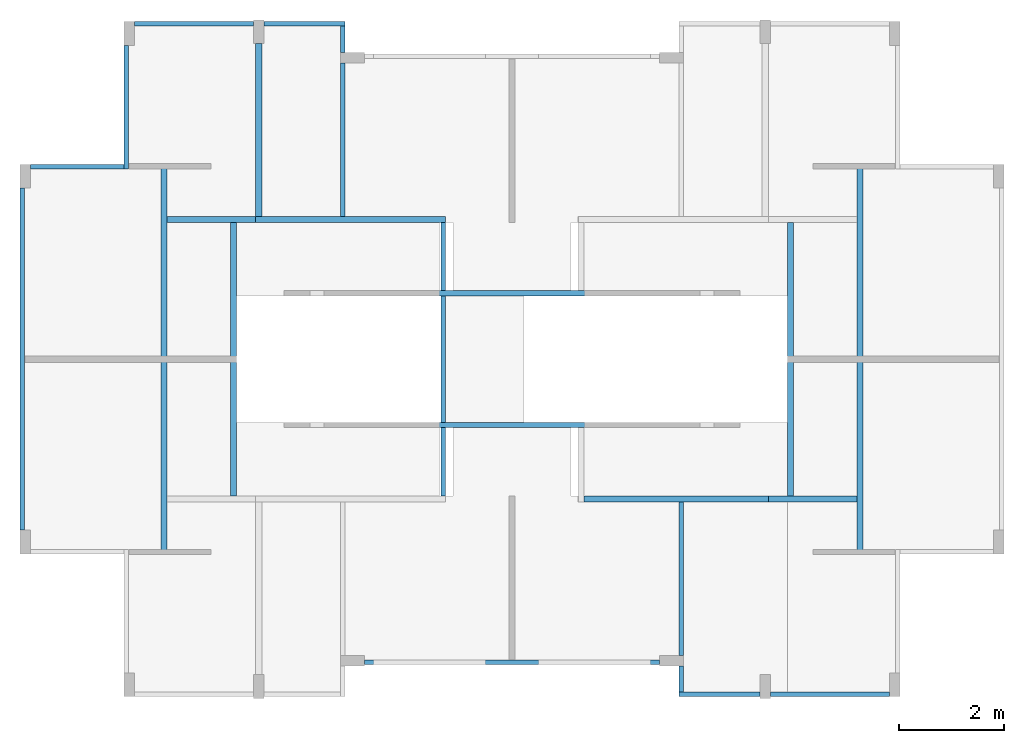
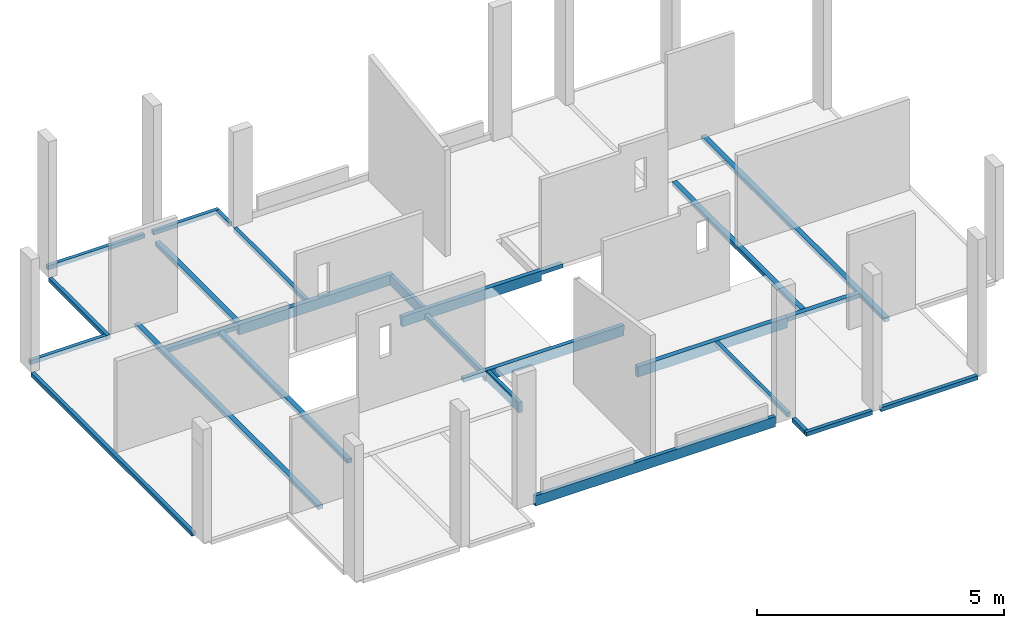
# One storey, part 2 of 5: 20 beams.
"""IFC4 building model written with IfcOpenShell, lengths in metres."""

from ifc_helpers import new_model, entity, si_unit, converted_unit, derived_unit, direction, frame, origin, place, context, subcontext, project, spatial, indexed_curve, outline, extrude, source, transform, mapped, material, type_object, type_shapes, element, save


model = new_model("IFC4")

# Units and contexts
model_context = context("Model", 3, precision=1e-05, world=origin(), true_north=direction((6.123031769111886e-17, 1.0)))
body_context = subcontext(model_context, "Body", "Model", "MODEL_VIEW")
ifc_project = project(units=[si_unit("LENGTHUNIT", "METRE"), si_unit("AREAUNIT", "SQUARE_METRE"), si_unit("VOLUMEUNIT", "CUBIC_METRE"), converted_unit("PLANEANGLEUNIT", "DEGREE", entity("IfcRatioMeasure", 0.017453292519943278), si_unit("PLANEANGLEUNIT", "RADIAN"), dimensions=[0, 0, 0, 0, 0, 0, 0]), si_unit("MASSUNIT", "GRAM", prefix="KILO"), derived_unit("MASSDENSITYUNIT", [(si_unit("MASSUNIT", "GRAM", prefix="KILO"), 1), (si_unit("LENGTHUNIT", "METRE"), -3)]), derived_unit("IONCONCENTRATIONUNIT", [(si_unit("MASSUNIT", "GRAM", prefix="KILO"), 1), (si_unit("LENGTHUNIT", "METRE"), -3)]), derived_unit("MOMENTOFINERTIAUNIT", [(si_unit("LENGTHUNIT", "METRE"), 4)]), si_unit("TIMEUNIT", "SECOND"), si_unit("FREQUENCYUNIT", "HERTZ"), si_unit("THERMODYNAMICTEMPERATUREUNIT", "DEGREE_CELSIUS"), derived_unit("THERMALTRANSMITTANCEUNIT", [(si_unit("MASSUNIT", "GRAM", prefix="KILO"), 1), (si_unit("THERMODYNAMICTEMPERATUREUNIT", "KELVIN"), -1), (si_unit("TIMEUNIT", "SECOND"), -3)]), derived_unit("THERMALCONDUCTANCEUNIT", [(si_unit("MASSUNIT", "GRAM", prefix="KILO"), 1), (si_unit("THERMODYNAMICTEMPERATUREUNIT", "KELVIN"), -1), (si_unit("TIMEUNIT", "SECOND"), -3), (si_unit("LENGTHUNIT", "METRE"), 1)]), derived_unit("VOLUMETRICFLOWRATEUNIT", [(si_unit("LENGTHUNIT", "METRE"), 3), (si_unit("TIMEUNIT", "SECOND"), -1)]), derived_unit("MASSFLOWRATEUNIT", [(si_unit("MASSUNIT", "GRAM", prefix="KILO"), 1), (si_unit("TIMEUNIT", "SECOND"), -1)]), derived_unit("ROTATIONALFREQUENCYUNIT", [(si_unit("TIMEUNIT", "SECOND"), -1)]), si_unit("ELECTRICCURRENTUNIT", "AMPERE"), si_unit("ELECTRICVOLTAGEUNIT", "VOLT"), si_unit("POWERUNIT", "WATT"), si_unit("FORCEUNIT", "NEWTON", prefix="KILO"), si_unit("ILLUMINANCEUNIT", "LUX"), si_unit("LUMINOUSFLUXUNIT", "LUMEN"), si_unit("LUMINOUSINTENSITYUNIT", "CANDELA"), derived_unit("USERDEFINED", [(si_unit("MASSUNIT", "GRAM", prefix="KILO"), -1), (si_unit("LENGTHUNIT", "METRE"), -2), (si_unit("TIMEUNIT", "SECOND"), 3), (si_unit("LUMINOUSFLUXUNIT", "LUMEN"), 1)]), derived_unit("USERDEFINED", [(si_unit("MASSUNIT", "GRAM", prefix="KILO"), 1), (si_unit("TIMEUNIT", "SECOND"), -3), (si_unit("LENGTHUNIT", "METRE"), 3), (si_unit("ELECTRICCURRENTUNIT", "AMPERE"), -2)]), derived_unit("SOUNDPOWERUNIT", [(si_unit("MASSUNIT", "GRAM", prefix="KILO"), 1), (si_unit("TIMEUNIT", "SECOND"), -3), (si_unit("LENGTHUNIT", "METRE"), 2)]), derived_unit("SOUNDPRESSUREUNIT", [(si_unit("MASSUNIT", "GRAM", prefix="KILO"), 1), (si_unit("LENGTHUNIT", "METRE"), -1), (si_unit("TIMEUNIT", "SECOND"), -2)]), derived_unit("LINEARVELOCITYUNIT", [(si_unit("LENGTHUNIT", "METRE"), 1), (si_unit("TIMEUNIT", "SECOND"), -1)]), si_unit("PRESSUREUNIT", "PASCAL"), derived_unit("USERDEFINED", [(si_unit("MASSUNIT", "GRAM", prefix="KILO"), 1), (si_unit("LENGTHUNIT", "METRE"), -2), (si_unit("TIMEUNIT", "SECOND"), -2)]), derived_unit("LINEARFORCEUNIT", [(si_unit("MASSUNIT", "GRAM", prefix="KILO"), 1), (si_unit("TIMEUNIT", "SECOND"), -2)]), derived_unit("PLANARFORCEUNIT", [(si_unit("MASSUNIT", "GRAM", prefix="KILO"), 1), (si_unit("LENGTHUNIT", "METRE"), -1), (si_unit("TIMEUNIT", "SECOND"), -2)]), derived_unit("SPECIFICHEATCAPACITYUNIT", [(si_unit("THERMODYNAMICTEMPERATUREUNIT", "KELVIN"), -1), (si_unit("LENGTHUNIT", "METRE"), 2), (si_unit("TIMEUNIT", "SECOND"), -2)]), derived_unit("HEATINGVALUEUNIT", [(si_unit("LENGTHUNIT", "METRE"), 2), (si_unit("TIMEUNIT", "SECOND"), -2)]), derived_unit("VAPORPERMEABILITYUNIT", [(si_unit("LENGTHUNIT", "METRE"), -1), (si_unit("TIMEUNIT", "SECOND"), 1)]), derived_unit("DYNAMICVISCOSITYUNIT", [(si_unit("MASSUNIT", "GRAM", prefix="KILO"), 1), (si_unit("TIMEUNIT", "SECOND"), -1), (si_unit("LENGTHUNIT", "METRE"), -1)]), derived_unit("THERMALEXPANSIONCOEFFICIENTUNIT", [(si_unit("THERMODYNAMICTEMPERATUREUNIT", "KELVIN"), -1)]), derived_unit("MODULUSOFELASTICITYUNIT", [(si_unit("MASSUNIT", "GRAM", prefix="KILO"), 1), (si_unit("LENGTHUNIT", "METRE"), -1), (si_unit("TIMEUNIT", "SECOND"), -2)]), derived_unit("ISOTHERMALMOISTURECAPACITYUNIT", [(si_unit("LENGTHUNIT", "METRE"), 3), (si_unit("MASSUNIT", "GRAM", prefix="KILO"), -1)]), derived_unit("MOISTUREDIFFUSIVITYUNIT", [(si_unit("TIMEUNIT", "SECOND"), -1), (si_unit("LENGTHUNIT", "METRE"), 2)])], contexts=[model_context])

# Site, building, storey
site_placement = place(None, origin())
site = spatial("IfcSite", under=ifc_project, at=site_placement, Name="Default", CompositionType="ELEMENT")
building_placement = place(site_placement, origin())
building = spatial("IfcBuilding", under=site, at=building_placement, Name="Las nubes", CompositionType="ELEMENT")
storey_placement = place(building_placement, frame((0.0, 0.0, 11.750000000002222)))
storey = spatial("IfcBuildingStorey", under=building, at=storey_placement, Name="PISO 6", CompositionType="ELEMENT", Elevation=11.750000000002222)

# Beams
ifc_material_1 = material(Name="Concrete, Cast In Situ", Category="Materials")
beam_type_1 = type_object("IfcBeamType", Name="M_Concrete-Rectangular Beam:(0.085x0.25)", PredefinedType="BEAM", material=ifc_material_1)
shared_shape_1 = source(origin(), body_context, "Body", "SweptSolid", [
    extrude(outline(indexed_curve([(-0.12500000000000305, -0.04249999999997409), (0.12499999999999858, -0.04250000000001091), (0.12500000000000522, 0.04249999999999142), (-0.12499999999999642, 0.042500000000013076), (-0.12500000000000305, -0.04249999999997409)], self_intersect=False)), frame((6.517499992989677, -12.18250002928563, 11.775000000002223), z_axis=(1.0, 0.0, 0.0), x_axis=(0.0, 0.0, -1.0)), (0.0, 0.0, 1.0), 5.6100000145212),
])
type_shapes(beam_type_1, [shared_shape_1])
beam_1_placement = place(storey_placement, frame((0.0, 0.0, -11.750000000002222)))
element("IfcBeam", 1, at=beam_1_placement, inside=storey, type_object=beam_type_1, material=ifc_material_1, Name="M_Concrete-Rectangular Beam:(0.085x0.25)", ObjectType="M_Concrete-Rectangular Beam:(0.085x0.25)", PredefinedType="BEAM", context=body_context, shape_type="MappedRepresentation", body=[
    mapped(shared_shape_1, transform((0.0, 0.0, 0.0), scale=1.0)),
])
ifc_material_2 = material(Name="Concrete - Cast-in-Place Concrete - 35 MPa", Category="Materials")
beam_type_2 = type_object("IfcBeamType", Name="M_Concrete-Rectangular Beam:(0.10x0.25)", PredefinedType="BEAM", material=ifc_material_2)
shared_shape_2 = source(origin(), body_context, "Body", "SweptSolid", [
    extrude(outline(indexed_curve([(-1.9843478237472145, -0.09347826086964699), (-1.4843478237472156, -0.09347826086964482), (-1.4793478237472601, -0.09347826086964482), (-1.4493478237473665, -0.09347826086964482), (-1.364347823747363, -0.09347826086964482), (-1.224347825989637, -0.09347826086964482), (1.015652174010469, -0.09347826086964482), (1.150652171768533, -0.09347826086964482), (1.2656521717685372, -0.09347826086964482), (1.2706521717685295, -0.09347826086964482), (1.2756521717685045, -0.09347826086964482), (1.7756521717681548, -0.09347826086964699), (1.7756521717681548, 0.006521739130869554), (1.765652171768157, 0.006521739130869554), (1.765652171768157, 0.15652173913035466), (1.2756521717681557, 0.15652173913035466), (1.2656521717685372, 0.15652173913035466), (1.150652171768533, 0.15652173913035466), (-1.364347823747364, 0.15652173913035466), (-1.4493478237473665, 0.15652173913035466), (-1.4843478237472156, 0.15652173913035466), (-1.4843478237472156, 0.00652173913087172), (-1.9843478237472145, 0.006521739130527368), (-1.9843478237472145, -0.09347826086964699)], self_intersect=False)), frame((9.42684782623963, -7.725000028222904, 11.656521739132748), z_axis=(0.0, 1.0, 0.0), x_axis=(1.0, 0.0, 0.0)), (0.0, 0.0, 1.0), 0.10000000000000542),
])
type_shapes(beam_type_2, [shared_shape_2])
beam_2_placement = place(storey_placement, frame((0.0, 0.0, -11.750000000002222)))
element("IfcBeam", 2, at=beam_2_placement, inside=storey, type_object=beam_type_2, material=ifc_material_2, Name="M_Concrete-Rectangular Beam:(0.10x0.25)", ObjectType="M_Concrete-Rectangular Beam:(0.10x0.25)", PredefinedType="BEAM", context=body_context, shape_type="MappedRepresentation", body=[
    mapped(shared_shape_2, transform((0.0, 0.0, 0.0), scale=1.0)),
])
beam_type_3 = type_object("IfcBeamType", Name="M_Concrete-Rectangular Beam:(0.10x0.25)", PredefinedType="BEAM", material=ifc_material_2)
shared_shape_3 = source(origin(), body_context, "Body", "SweptSolid", [
    extrude(outline(indexed_curve([(-0.11000000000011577, -2.2853333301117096), (-0.009999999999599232, -2.2853333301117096), (-0.009999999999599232, -1.7853333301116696), (0.13999999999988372, -1.7853333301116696), (0.13999999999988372, 0.8546666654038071), (0.13999999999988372, 0.9396666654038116), (0.13999999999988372, 0.9746666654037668), (0.13999999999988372, 1.4646666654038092), (-0.009999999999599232, 1.4646666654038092), (-0.009999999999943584, 1.4746666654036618), (-0.11000000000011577, 1.4746666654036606), (-0.11000000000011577, 0.9746666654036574), (-0.11000000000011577, 0.9396666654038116), (-0.11000000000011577, -0.6353333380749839), (-0.11000000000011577, -1.7853333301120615), (-0.11000000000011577, -2.2853333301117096)], self_intersect=False)), frame((8.91716666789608, -5.22500002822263, 11.640000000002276), z_axis=(0.0, 1.0, 0.0), x_axis=(0.0, 0.0, -1.0)), (0.0, 0.0, 1.0), 0.10000000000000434),
])
type_shapes(beam_type_3, [shared_shape_3])
beam_3_placement = place(storey_placement, frame((0.0, 0.0, -11.750000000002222)))
element("IfcBeam", 3, at=beam_3_placement, inside=storey, type_object=beam_type_3, material=ifc_material_2, Name="M_Concrete-Rectangular Beam:(0.10x0.25)", ObjectType="M_Concrete-Rectangular Beam:(0.10x0.25)", PredefinedType="BEAM", context=body_context, shape_type="MappedRepresentation", body=[
    mapped(shared_shape_3, transform((0.0, 0.0, 0.0), scale=1.0)),
])
beam_type_4 = type_object("IfcBeamType", Name="M_Concrete-Rectangular Beam:(0.085x0.10)", PredefinedType="BEAM", material=ifc_material_1)
shared_shape_4 = source(origin(), body_context, "Body", "SweptSolid", [
    extrude(outline(indexed_curve([(-0.04250000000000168, -0.050000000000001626), (0.04250000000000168, -0.050000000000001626), (0.0425000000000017, 0.04999999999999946), (-0.04250000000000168, 0.04999999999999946), (-0.04250000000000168, -0.050000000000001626)], self_intersect=False)), frame((0.01500000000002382, -9.674994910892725, 11.700000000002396), z_axis=(0.0, 1.0, 0.0), x_axis=(-1.0, 0.0, 0.0)), (0.0, 0.0, 1.0), 6.499994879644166),
])
type_shapes(beam_type_4, [shared_shape_4])
beam_4_placement = place(storey_placement, frame((0.0, 0.0, -11.750000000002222)))
element("IfcBeam", 4, at=beam_4_placement, inside=storey, type_object=beam_type_4, material=ifc_material_1, Name="M_Concrete-Rectangular Beam:(0.085x0.10)", ObjectType="M_Concrete-Rectangular Beam:(0.085x0.10)", PredefinedType="BEAM", context=body_context, shape_type="MappedRepresentation", body=[
    mapped(shared_shape_4, transform((0.0, 0.0, 0.0), scale=1.0)),
])
beam_type_5 = type_object("IfcBeamType", Name="M_Concrete-Rectangular Beam:(0.085x0.10)", PredefinedType="BEAM", material=ifc_material_1)
shared_shape_5 = source(origin(), body_context, "Body", "SweptSolid", [
    extrude(outline(indexed_curve([(-0.04250000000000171, -0.050000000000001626), (0.04250000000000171, -0.050000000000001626), (0.04250000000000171, 0.04999999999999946), (-0.04250000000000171, 0.04999999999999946), (-0.04250000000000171, -0.050000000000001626)], self_intersect=False)), frame((1.9899999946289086, -2.810000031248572, 11.700000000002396), z_axis=(0.0, 1.0, 0.0), x_axis=(-1.0, 0.0, 0.0)), (0.0, 0.0, 1.0), 2.3500000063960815),
])
type_shapes(beam_type_5, [shared_shape_5])
beam_5_placement = place(storey_placement, frame((0.0, 0.0, -11.750000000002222)))
element("IfcBeam", 5, at=beam_5_placement, inside=storey, type_object=beam_type_5, material=ifc_material_1, Name="M_Concrete-Rectangular Beam:(0.085x0.10)", ObjectType="M_Concrete-Rectangular Beam:(0.085x0.10)", PredefinedType="BEAM", context=body_context, shape_type="MappedRepresentation", body=[
    mapped(shared_shape_5, transform((0.0, 0.0, 0.0), scale=1.0)),
])
beam_type_6 = type_object("IfcBeamType", Name="M_Concrete-Rectangular Beam:(0.085x0.10)", PredefinedType="BEAM", material=ifc_material_1)
shared_shape_6 = source(origin(), body_context, "Body", "SweptSolid", [
    extrude(outline(indexed_curve([(-0.05000000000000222, -0.04249999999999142), (0.04999999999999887, -0.042500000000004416), (0.05000000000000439, 0.04249999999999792), (-0.04999999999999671, 0.042500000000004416), (-0.05000000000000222, -0.04249999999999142)], self_intersect=False)), frame((14.235000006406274, -12.797498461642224, 11.700000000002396), z_axis=(1.0, 0.0, 0.0), x_axis=(0.0, 0.0, -1.0)), (0.0, 0.0, 1.0), 2.2624999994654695),
    extrude(outline(indexed_curve([(-0.05000000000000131, -0.04249999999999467), (0.04999999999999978, -0.042500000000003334), (0.05000000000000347, 0.042499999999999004), (-0.049999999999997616, 0.042500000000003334), (-0.05000000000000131, -0.04249999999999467)], self_intersect=False)), frame((12.49250000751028, -12.797498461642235, 11.700000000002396), z_axis=(1.0, 0.0, 0.0), x_axis=(0.0, 0.0, -1.0)), (0.0, 0.0, 1.0), 1.5424999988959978),
])
type_shapes(beam_type_6, [shared_shape_6])
beam_6_placement = place(storey_placement, frame((0.0, 0.0, -11.750000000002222)))
element("IfcBeam", 6, at=beam_6_placement, inside=storey, type_object=beam_type_6, material=ifc_material_1, Name="M_Concrete-Rectangular Beam:(0.085x0.10)", ObjectType="M_Concrete-Rectangular Beam:(0.085x0.10)", PredefinedType="BEAM", context=body_context, shape_type="MappedRepresentation", body=[
    mapped(shared_shape_6, transform((0.0, 0.0, 0.0), scale=1.0)),
])
beam_type_7 = type_object("IfcBeamType", Name="M_Concrete-Rectangular Beam:(0.085x0.25)", PredefinedType="BEAM", material=ifc_material_1)
shared_shape_7 = source(origin(), body_context, "Body", "SweptSolid", [
    extrude(outline(indexed_curve([(-0.04250000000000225, -0.12500000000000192), (0.04250000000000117, -0.12500000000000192), (0.04250000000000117, 0.12499999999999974), (-0.04250000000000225, 0.12499999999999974), (-0.04250000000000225, -0.12500000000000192)], self_intersect=False)), frame((8.020000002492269, -5.125000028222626, 11.625000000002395), z_axis=(0.0, 1.0, 0.0), x_axis=(-1.0, 0.0, 0.0)), (0.0, 0.0, 1.0), 1.3000000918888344),
    extrude(outline(indexed_curve([(-0.04250000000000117, -0.12500000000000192), (0.04250000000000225, -0.12500000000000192), (0.04250000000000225, 0.12499999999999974), (-0.04250000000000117, 0.12499999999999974), (-0.04250000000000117, -0.12500000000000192)], self_intersect=False)), frame((8.020000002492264, -9.025000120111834, 11.625000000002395), z_axis=(0.0, 1.0, 0.0), x_axis=(-1.0, 0.0, 0.0)), (0.0, 0.0, 1.0), 1.3000000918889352),
    extrude(outline(indexed_curve([(-0.04250000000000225, -0.06499999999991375), (0.04250000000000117, -0.06499999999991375), (0.042500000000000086, 0.06499999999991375), (-0.04250000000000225, 0.06499999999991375), (-0.04250000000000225, -0.06499999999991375)], self_intersect=False)), frame((8.020000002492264, -7.6250000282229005, 11.565000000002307), z_axis=(0.0, 1.0, 0.0), x_axis=(-1.0, 0.0, 0.0)), (0.0, 0.0, 1.0), 2.4000000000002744),
])
type_shapes(beam_type_7, [shared_shape_7])
beam_7_placement = place(storey_placement, frame((0.0, 0.0, -11.750000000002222)))
element("IfcBeam", 7, at=beam_7_placement, inside=storey, type_object=beam_type_7, material=ifc_material_1, Name="M_Concrete-Rectangular Beam:(0.085x0.25)", ObjectType="M_Concrete-Rectangular Beam:(0.085x0.25)", PredefinedType="BEAM", context=body_context, shape_type="MappedRepresentation", body=[
    mapped(shared_shape_7, transform((0.0, 0.0, 0.0), scale=1.0)),
])
beam_type_8 = type_object("IfcBeamType", Name="M_Concrete-Rectangular Beam:(0.115x0.25)", PredefinedType="BEAM", material=ifc_material_1)
shared_shape_8 = source(origin(), body_context, "Body", "SweptSolid", [
    extrude(outline(indexed_curve([(-0.12500000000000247, -0.05749999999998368), (0.12499999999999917, -0.0575000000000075), (0.12500000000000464, 0.05749999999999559), (-0.124999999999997, 0.0575000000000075), (-0.12500000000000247, -0.05749999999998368)], self_intersect=False)), frame((8.062500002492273, -3.7674999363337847, 11.625000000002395), z_axis=(-1.0, 0.0, 0.0), x_axis=(0.0, 0.0, -1.0)), (0.0, 0.0, 1.0), 3.610000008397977),
])
type_shapes(beam_type_8, [shared_shape_8])
beam_8_placement = place(storey_placement, frame((0.0, 0.0, -11.750000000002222)))
element("IfcBeam", 8, at=beam_8_placement, inside=storey, type_object=beam_type_8, material=ifc_material_1, Name="M_Concrete-Rectangular Beam:(0.115x0.25)", ObjectType="M_Concrete-Rectangular Beam:(0.115x0.25)", PredefinedType="BEAM", context=body_context, shape_type="MappedRepresentation", body=[
    mapped(shared_shape_8, transform((0.0, 0.0, 0.0), scale=1.0)),
])
beam_type_9 = type_object("IfcBeamType", Name="M_Concrete-Rectangular Beam:(0.115x0.25)", PredefinedType="BEAM", material=ifc_material_1)
shared_shape_9 = source(origin(), body_context, "Body", "SweptSolid", [
    extrude(outline(indexed_curve([(-0.12500000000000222, -0.057499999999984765), (0.12499999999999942, -0.05750000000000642), (0.12500000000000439, 0.05749999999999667), (-0.12499999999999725, 0.0575000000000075), (-0.12500000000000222, -0.057499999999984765)], self_intersect=False)), frame((10.692499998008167, -9.082500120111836, 11.625000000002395), z_axis=(1.0, 0.0, 0.0), x_axis=(0.0, 0.0, -1.0)), (0.0, 0.0, 1.0), 3.5000000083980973),
])
type_shapes(beam_type_9, [shared_shape_9])
beam_9_placement = place(storey_placement, frame((0.0, 0.0, -11.750000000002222)))
element("IfcBeam", 9, at=beam_9_placement, inside=storey, type_object=beam_type_9, material=ifc_material_1, Name="M_Concrete-Rectangular Beam:(0.115x0.25)", ObjectType="M_Concrete-Rectangular Beam:(0.115x0.25)", PredefinedType="BEAM", context=body_context, shape_type="MappedRepresentation", body=[
    mapped(shared_shape_9, transform((0.0, 0.0, 0.0), scale=1.0)),
])
beam_type_10 = type_object("IfcBeamType", Name="M_Concrete-Rectangular Beam:(0.115x0.10)", PredefinedType="BEAM", material=ifc_material_1)
shared_shape_10 = source(origin(), body_context, "Body", "SweptSolid", [
    extrude(outline(indexed_curve([(-0.05750000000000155, -0.050000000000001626), (0.05750000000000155, -0.050000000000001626), (0.05750000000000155, 0.04999999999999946), (-0.05750000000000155, 0.04999999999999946), (-0.05750000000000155, -0.050000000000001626)], self_intersect=False)), frame((2.710001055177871, -10.140000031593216, 11.700000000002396), z_axis=(0.0, 1.0, 0.0), x_axis=(-1.0, 0.0, 0.0)), (0.0, 0.0, 1.0), 7.430000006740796),
])
type_shapes(beam_type_10, [shared_shape_10])
beam_10_placement = place(storey_placement, frame((0.0, 0.0, -11.750000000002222)))
element("IfcBeam", 10, at=beam_10_placement, inside=storey, type_object=beam_type_10, material=ifc_material_1, Name="M_Concrete-Rectangular Beam:(0.115x0.10)", ObjectType="M_Concrete-Rectangular Beam:(0.115x0.10)", PredefinedType="BEAM", context=body_context, shape_type="MappedRepresentation", body=[
    mapped(shared_shape_10, transform((0.0, 0.0, 0.0), scale=1.0)),
])
beam_type_11 = type_object("IfcBeamType", Name="M_Concrete-Rectangular Beam:(0.115x0.10)", PredefinedType="BEAM", material=ifc_material_1)
shared_shape_11 = source(origin(), body_context, "Body", "SweptSolid", [
    extrude(outline(indexed_curve([(-0.05750000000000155, -0.050000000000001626), (0.05750000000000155, -0.050000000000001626), (0.05750000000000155, 0.04999999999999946), (-0.05750000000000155, 0.04999999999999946), (-0.05750000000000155, -0.050000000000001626)], self_intersect=False)), frame((4.029999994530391, -9.025000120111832, 11.700000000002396), z_axis=(0.0, 1.0, 0.0), x_axis=(-1.0, 0.0, 0.0)), (0.0, 0.0, 1.0), 5.200000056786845),
])
type_shapes(beam_type_11, [shared_shape_11])
beam_11_placement = place(storey_placement, frame((0.0, 0.0, -11.750000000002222)))
element("IfcBeam", 11, at=beam_11_placement, inside=storey, type_object=beam_type_11, material=ifc_material_1, Name="M_Concrete-Rectangular Beam:(0.115x0.10)", ObjectType="M_Concrete-Rectangular Beam:(0.115x0.10)", PredefinedType="BEAM", context=body_context, shape_type="MappedRepresentation", body=[
    mapped(shared_shape_11, transform((0.0, 0.0, 0.0), scale=1.0)),
])
beam_type_12 = type_object("IfcBeamType", Name="M_Concrete-Rectangular Beam:(0.115x0.10)", PredefinedType="BEAM", material=ifc_material_1)
shared_shape_12 = source(origin(), body_context, "Body", "SweptSolid", [
    extrude(outline(indexed_curve([(-0.05750000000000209, -0.04999999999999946), (0.05750000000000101, -0.04999999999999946), (0.05750000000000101, 0.050000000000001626), (-0.05750000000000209, 0.050000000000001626), (-0.05750000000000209, -0.04999999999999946)], self_intersect=False)), frame((4.5099999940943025, -0.4300000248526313, 11.700000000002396), z_axis=(0.0, -1.0, 0.0), x_axis=(-1.0, 0.0, 0.0)), (0.0, 0.0, 1.0), 3.2799999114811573),
])
type_shapes(beam_type_12, [shared_shape_12])
beam_12_placement = place(storey_placement, frame((0.0, 0.0, -11.750000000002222)))
element("IfcBeam", 12, at=beam_12_placement, inside=storey, type_object=beam_type_12, material=ifc_material_1, Name="M_Concrete-Rectangular Beam:(0.115x0.10)", ObjectType="M_Concrete-Rectangular Beam:(0.115x0.10)", PredefinedType="BEAM", context=body_context, shape_type="MappedRepresentation", body=[
    mapped(shared_shape_12, transform((0.0, 0.0, 0.0), scale=1.0)),
])
beam_type_13 = type_object("IfcBeamType", Name="M_Concrete-Rectangular Beam:(0.115x0.10)", PredefinedType="BEAM", material=ifc_material_1)
shared_shape_13 = source(origin(), body_context, "Body", "SweptSolid", [
    extrude(outline(indexed_curve([(-0.05000000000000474, -0.057499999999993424), (0.049999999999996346, -0.057500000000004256), (0.05000000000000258, 0.057499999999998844), (-0.04999999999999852, 0.057500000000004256), (-0.05000000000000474, -0.057499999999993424)], self_intersect=False)), frame((4.452499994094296, -3.7675000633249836, 11.700000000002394), z_axis=(-1.0, 0.0, 0.0), x_axis=(0.0, 0.0, -1.0)), (0.0, 0.0, 1.0), 1.6849989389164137),
])
type_shapes(beam_type_13, [shared_shape_13])
beam_13_placement = place(storey_placement, frame((0.0, 0.0, -11.750000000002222)))
element("IfcBeam", 13, at=beam_13_placement, inside=storey, type_object=beam_type_13, material=ifc_material_1, Name="M_Concrete-Rectangular Beam:(0.115x0.10)", ObjectType="M_Concrete-Rectangular Beam:(0.115x0.10)", PredefinedType="BEAM", context=body_context, shape_type="MappedRepresentation", body=[
    mapped(shared_shape_13, transform((0.0, 0.0, 0.0), scale=1.0)),
])
beam_type_14 = type_object("IfcBeamType", Name="M_Concrete-Rectangular Beam:(0.115x0.10)", PredefinedType="BEAM", material=ifc_material_1)
shared_shape_14 = source(origin(), body_context, "Body", "SweptSolid", [
    extrude(outline(indexed_curve([(-0.057500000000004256, -0.050000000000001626), (0.05750000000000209, -0.050000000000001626), (0.05750000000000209, 0.04999999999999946), (-0.05750000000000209, 0.04999999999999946), (-0.057500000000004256, -0.050000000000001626)], self_intersect=False)), frame((15.934998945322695, -10.14000003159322, 11.700000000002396), z_axis=(0.0, 1.0, 0.0), x_axis=(-1.0, 0.0, 0.0)), (0.0, 0.0, 1.0), 7.430000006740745),
])
type_shapes(beam_type_14, [shared_shape_14])
beam_14_placement = place(storey_placement, frame((0.0, 0.0, -11.750000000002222)))
element("IfcBeam", 14, at=beam_14_placement, inside=storey, type_object=beam_type_14, material=ifc_material_1, Name="M_Concrete-Rectangular Beam:(0.115x0.10)", ObjectType="M_Concrete-Rectangular Beam:(0.115x0.10)", PredefinedType="BEAM", context=body_context, shape_type="MappedRepresentation", body=[
    mapped(shared_shape_14, transform((0.0, 0.0, 0.0), scale=1.0)),
])
beam_type_15 = type_object("IfcBeamType", Name="M_Concrete-Rectangular Beam:(0.115x0.10)", PredefinedType="BEAM", material=ifc_material_1)
shared_shape_15 = source(origin(), body_context, "Body", "SweptSolid", [
    extrude(outline(indexed_curve([(-0.05750000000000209, -0.050000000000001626), (0.05750000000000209, -0.050000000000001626), (0.05750000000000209, 0.04999999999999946), (-0.05750000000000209, 0.04999999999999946), (-0.05750000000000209, -0.050000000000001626)], self_intersect=False)), frame((14.615000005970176, -9.025000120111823, 11.700000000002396), z_axis=(0.0, 1.0, 0.0), x_axis=(-1.0, 0.0, 0.0)), (0.0, 0.0, 1.0), 5.200000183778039),
])
type_shapes(beam_type_15, [shared_shape_15])
beam_15_placement = place(storey_placement, frame((0.0, 0.0, -11.750000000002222)))
element("IfcBeam", 15, at=beam_15_placement, inside=storey, type_object=beam_type_15, material=ifc_material_1, Name="M_Concrete-Rectangular Beam:(0.115x0.10)", ObjectType="M_Concrete-Rectangular Beam:(0.115x0.10)", PredefinedType="BEAM", context=body_context, shape_type="MappedRepresentation", body=[
    mapped(shared_shape_15, transform((0.0, 0.0, 0.0), scale=1.0)),
])
beam_type_16 = type_object("IfcBeamType", Name="M_Concrete-Rectangular Beam:(0.115x0.10)", PredefinedType="BEAM", material=ifc_material_1)
shared_shape_16 = source(origin(), body_context, "Body", "SweptSolid", [
    extrude(outline(indexed_curve([(-0.05000000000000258, -0.057499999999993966), (0.04999999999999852, -0.0575000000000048), (0.05000000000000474, 0.0574999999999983), (-0.049999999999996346, 0.057500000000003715), (-0.05000000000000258, -0.057499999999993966)], self_intersect=False)), frame((14.192500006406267, -9.082499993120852, 11.700000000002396), z_axis=(1.0, 0.0, 0.0), x_axis=(0.0, 0.0, -1.0)), (0.0, 0.0, 1.0), 1.6849989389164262),
])
type_shapes(beam_type_16, [shared_shape_16])
beam_16_placement = place(storey_placement, frame((0.0, 0.0, -11.750000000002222)))
element("IfcBeam", 16, at=beam_16_placement, inside=storey, type_object=beam_type_16, material=ifc_material_1, Name="M_Concrete-Rectangular Beam:(0.115x0.10)", ObjectType="M_Concrete-Rectangular Beam:(0.115x0.10)", PredefinedType="BEAM", context=body_context, shape_type="MappedRepresentation", body=[
    mapped(shared_shape_16, transform((0.0, 0.0, 0.0), scale=1.0)),
])
beam_type_17 = type_object("IfcBeamType", Name="M_Concrete-Rectangular Beam:(0.085x0.10)", PredefinedType="BEAM", material=ifc_material_1)
shared_shape_17 = source(origin(), body_context, "Body", "SweptSolid", [
    extrude(outline(indexed_curve([(-0.04250000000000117, -0.050000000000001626), (0.042499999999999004, -0.050000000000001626), (0.04250000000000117, 0.04999999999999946), (-0.042500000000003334, 0.0499999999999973), (-0.04250000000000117, -0.050000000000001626)], self_intersect=False)), frame((12.535000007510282, -12.755000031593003, 11.700000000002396), z_axis=(0.0, 1.0, 0.0), x_axis=(-1.0, 0.0, 0.0)), (0.0, 0.0, 1.0), 0.5000000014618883),
    extrude(outline(indexed_curve([(-0.042499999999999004, -0.050000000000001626), (0.042500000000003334, -0.050000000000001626), (0.042500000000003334, 0.04999999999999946), (-0.042499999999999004, 0.0499999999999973), (-0.042499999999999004, -0.050000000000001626)], self_intersect=False)), frame((12.535000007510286, -12.055000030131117, 11.700000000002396), z_axis=(0.0, 1.0, 0.0), x_axis=(-1.0, 0.0, 0.0)), (0.0, 0.0, 1.0), 2.914999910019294),
])
type_shapes(beam_type_17, [shared_shape_17])
beam_17_placement = place(storey_placement, frame((0.0, 0.0, -11.750000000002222)))
element("IfcBeam", 17, at=beam_17_placement, inside=storey, type_object=beam_type_17, material=ifc_material_1, Name="M_Concrete-Rectangular Beam:(0.085x0.10)", ObjectType="M_Concrete-Rectangular Beam:(0.085x0.10)", PredefinedType="BEAM", context=body_context, shape_type="MappedRepresentation", body=[
    mapped(shared_shape_17, transform((0.0, 0.0, 0.0), scale=1.0)),
])
beam_type_18 = type_object("IfcBeamType", Name="M_Concrete-Rectangular Beam:(0.085x0.10)", PredefinedType="BEAM", material=ifc_material_1)
shared_shape_18 = source(origin(), body_context, "Body", "SweptSolid", [
    extrude(outline(indexed_curve([(-0.050000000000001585, -0.042499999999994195), (0.0499999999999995, -0.04250000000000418), (0.05000000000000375, 0.0424999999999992), (-0.04999999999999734, 0.04250000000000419), (-0.050000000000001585, -0.042499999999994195)], self_intersect=False)), frame((4.609999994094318, -0.05247950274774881, 11.700000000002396), z_axis=(1.0, 0.0, 0.0), x_axis=(0.0, 0.0, -1.0)), (0.0, 0.0, 1.0), 1.5424999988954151),
    extrude(outline(indexed_curve([(-0.05000000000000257, -0.042499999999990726), (0.049999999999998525, -0.042500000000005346), (0.050000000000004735, 0.04249999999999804), (-0.04999999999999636, 0.042500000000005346), (-0.05000000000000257, -0.042499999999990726)], self_intersect=False)), frame((2.14749999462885, -0.05247950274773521, 11.700000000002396), z_axis=(1.0, 0.0, 0.0), x_axis=(0.0, 0.0, -1.0)), (0.0, 0.0, 1.0), 2.2624999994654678),
])
type_shapes(beam_type_18, [shared_shape_18])
beam_18_placement = place(storey_placement, frame((0.0, 0.0, -11.750000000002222)))
element("IfcBeam", 18, at=beam_18_placement, inside=storey, type_object=beam_type_18, material=ifc_material_1, Name="M_Concrete-Rectangular Beam:(0.085x0.10)", ObjectType="M_Concrete-Rectangular Beam:(0.085x0.10)", PredefinedType="BEAM", context=body_context, shape_type="MappedRepresentation", body=[
    mapped(shared_shape_18, transform((0.0, 0.0, 0.0), scale=1.0)),
])
beam_type_19 = type_object("IfcBeamType", Name="M_Concrete-Rectangular Beam:(0.085x0.10)", PredefinedType="BEAM", material=ifc_material_1)
shared_shape_19 = source(origin(), body_context, "Body", "SweptSolid", [
    extrude(outline(indexed_curve([(-0.04250000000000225, -0.050000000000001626), (0.04250000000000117, -0.04999999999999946), (0.04250000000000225, 0.04999999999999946), (-0.04250000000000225, 0.04999999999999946), (-0.04250000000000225, -0.050000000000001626)], self_intersect=False)), frame((6.109999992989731, -0.09497950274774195, 11.700000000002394), z_axis=(0.0, -1.0, 0.0), x_axis=(-1.0, 0.0, 0.0)), (0.0, 0.0, 1.0), 0.5000205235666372),
    extrude(outline(indexed_curve([(-0.04250000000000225, -0.050000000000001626), (0.04250000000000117, -0.04999999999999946), (0.04250000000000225, 0.04999999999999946), (-0.04250000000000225, 0.04999999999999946), (-0.04250000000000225, -0.050000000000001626)], self_intersect=False)), frame((6.10999999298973, -0.7950000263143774, 11.700000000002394), z_axis=(0.0, -1.0, 0.0), x_axis=(-1.0, 0.0, 0.0)), (0.0, 0.0, 1.0), 2.914999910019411),
])
type_shapes(beam_type_19, [shared_shape_19])
beam_19_placement = place(storey_placement, frame((0.0, 0.0, -11.750000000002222)))
element("IfcBeam", 19, at=beam_19_placement, inside=storey, type_object=beam_type_19, material=ifc_material_1, Name="M_Concrete-Rectangular Beam:(0.085x0.10)", ObjectType="M_Concrete-Rectangular Beam:(0.085x0.10)", PredefinedType="BEAM", context=body_context, shape_type="MappedRepresentation", body=[
    mapped(shared_shape_19, transform((0.0, 0.0, 0.0), scale=1.0)),
])
beam_type_20 = type_object("IfcBeamType", Name="M_Concrete-Rectangular Beam:(0.085x0.10)", PredefinedType="BEAM", material=ifc_material_1)
shared_shape_20 = source(origin(), body_context, "Body", "SweptSolid", [
    extrude(outline(indexed_curve([(-0.050000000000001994, -0.042499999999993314), (0.0499999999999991, -0.04250000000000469), (0.05000000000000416, 0.04249999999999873), (-0.049999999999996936, 0.04250000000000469), (-0.050000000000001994, -0.042499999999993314)], self_intersect=False)), frame((0.17250000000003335, -2.7675000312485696, 11.700000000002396), z_axis=(1.0, 0.0, 0.0), x_axis=(0.0, 0.0, -1.0)), (0.0, 0.0, 1.0), 1.7749999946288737),
])
type_shapes(beam_type_20, [shared_shape_20])
beam_20_placement = place(storey_placement, frame((0.0, 0.0, -11.750000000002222)))
element("IfcBeam", 20, at=beam_20_placement, inside=storey, type_object=beam_type_20, material=ifc_material_1, Name="M_Concrete-Rectangular Beam:(0.085x0.10)", ObjectType="M_Concrete-Rectangular Beam:(0.085x0.10)", PredefinedType="BEAM", context=body_context, shape_type="MappedRepresentation", body=[
    mapped(shared_shape_20, transform((0.0, 0.0, 0.0), scale=1.0)),
])

save(model, "model.ifc")
